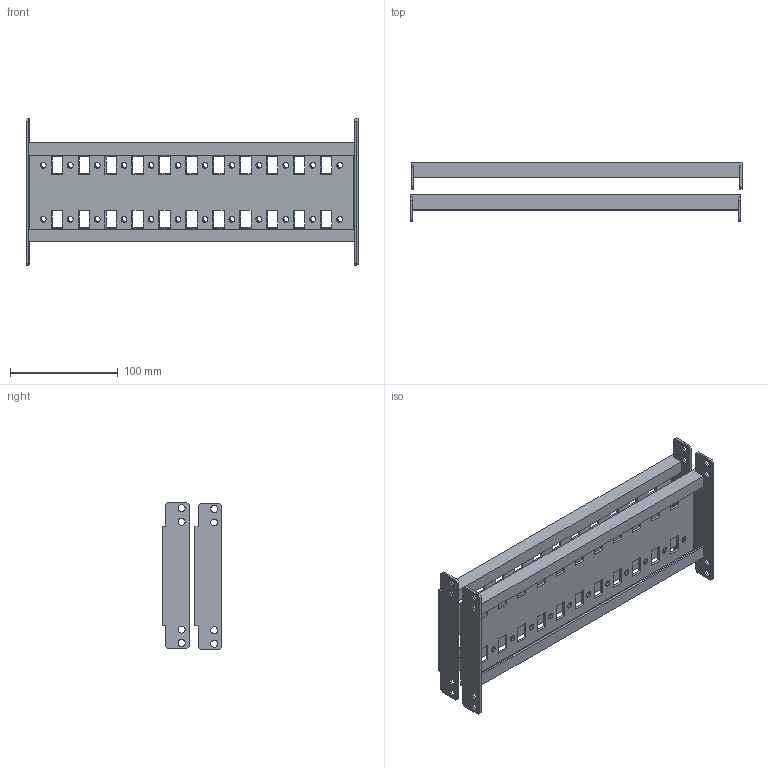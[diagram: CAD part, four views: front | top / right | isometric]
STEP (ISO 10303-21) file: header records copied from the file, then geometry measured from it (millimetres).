
FILE_DESCRIPTION (( 'STEP AP214' ), '1' );
FILE_NAME ('FO-00-RBB-040 Ðåéêà îñíîâàíèÿ òèï Â.STEP', '2025-08-14T08:26:36', ( '' ), ( '' ), 'SwSTEP 2.0', 'SolidWorks 2023', '' );
FILE_SCHEMA (( 'AUTOMOTIVE_DESIGN' ));
Length unit declared in the file: millimetre
Products named in the file (2): Рейка основания тип B 400мм; FO-00-RBB-040 Рейка основания тип В
Assembly tree (2 placements, depth 2):
  FO-00-RBB-040 Рейка основания тип В
    Рейка основания тип B 400мм  x2
Bounding box: 308.01 x 55.29 x 136.68 mm (x, y, z)
Volume: 173965.5 mm3; surface area: 181882.8 mm2
Topology: 2 solids, 2 shells, 388 faces, 1144 edges, 760 vertices
Faces by surface type: plane 260, cylinder 128
Entity records: 6731 total; most frequent: CARTESIAN_POINT 1151, ORIENTED_EDGE 1144, DIRECTION 1098, EDGE_CURVE 572, LINE 444, VECTOR 444, VERTEX_POINT 380, AXIS2_PLACEMENT_3D 327
